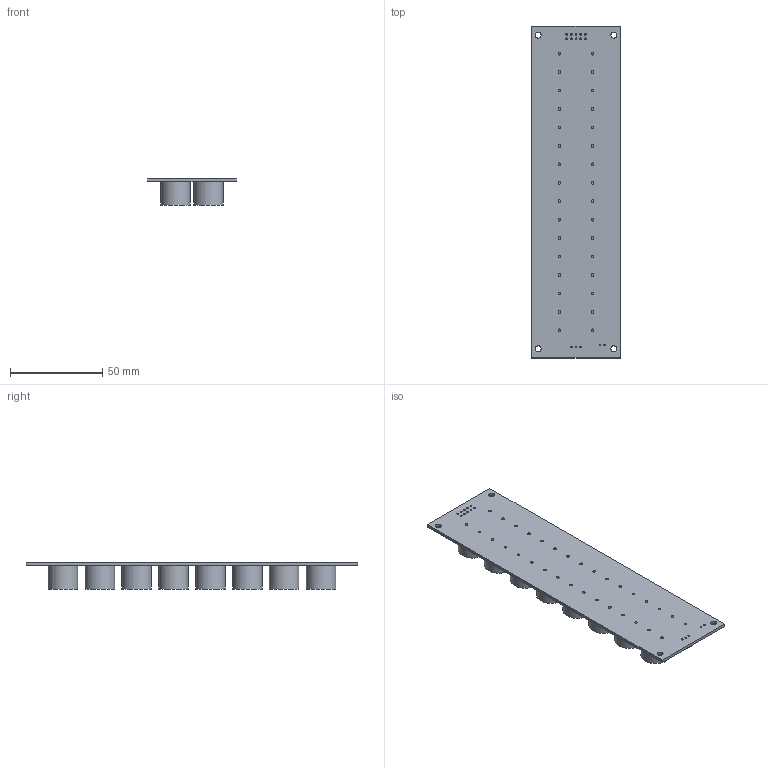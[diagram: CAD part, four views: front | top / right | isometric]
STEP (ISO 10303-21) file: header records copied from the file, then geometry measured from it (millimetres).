
FILE_DESCRIPTION(('Open CASCADE Model'),'2;1');
FILE_NAME('Open CASCADE Shape Model','2026-10-05T11:00:30',('Author'),( 'Open CASCADE'),'Open CASCADE STEP processor 7.9','Open CASCADE 7.9' ,'Unknown');
FILE_SCHEMA(('AUTOMOTIVE_DESIGN { 1 0 10303 214 1 1 1 1 }'));
Length unit declared in the file: millimetre
Products named in the file (3): panel_8f; pcb_8f; tx_8f_t1
Assembly tree (17 placements, depth 2):
  panel_8f
    pcb_8f
    tx_8f_t1  x16
Bounding box: 48 x 180 x 14.1 mm (x, y, z)
Volume: 53876.5 mm3; surface area: 34675.8 mm2
Topology: 17 solids, 17 shells, 105 faces, 213 edges, 142 vertices
Faces by surface type: cylinder 67, plane 38
Full cylindrical faces by diameter (mm): 0.8 x2, 1 x13, 1.5 x32, 3.2 x4, 16 x16
Entity records: 4872 total; most frequent: CARTESIAN_POINT 1306, DIRECTION 662, ORIENTED_EDGE 336, PCURVE 336, DEFINITIONAL_REPRESENTATION 336, LINE 296, VECTOR 296, AXIS2_PLACEMENT_3D 182
